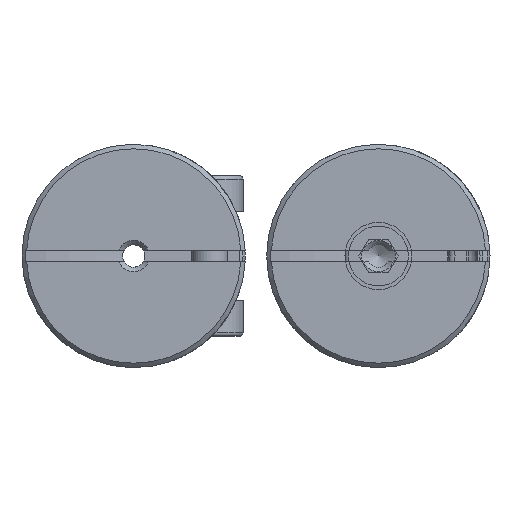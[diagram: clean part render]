
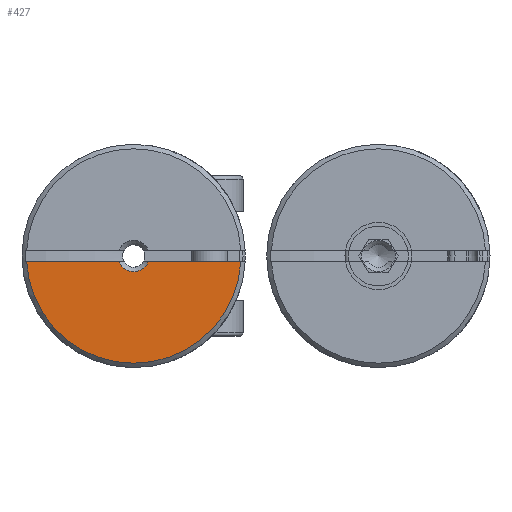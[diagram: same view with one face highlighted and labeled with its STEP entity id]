
A CAD part, left-side view. The second image highlights one B-rep face of the part: STEP entity #427.
In plain terms, the highlighted planar face has unit normal (-1, 0, 0).
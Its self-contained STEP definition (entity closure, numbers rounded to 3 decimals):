
#427 = ADVANCED_FACE( 'NONE', ( #911 ), #912, .F. );
#911 = FACE_OUTER_BOUND( '', #1321, .T. );
#912 = PLANE( '', #1322 );
#1321 = EDGE_LOOP( '', ( #1968, #1969, #1970, #1971 ) );
#1322 = AXIS2_PLACEMENT_3D( '', #1972, #1973, #1974 );
#1968 = ORIENTED_EDGE( '', *, *, #2338, .F. );
#1969 = ORIENTED_EDGE( '', *, *, #2339, .T. );
#1970 = ORIENTED_EDGE( '', *, *, #2340, .F. );
#1971 = ORIENTED_EDGE( '', *, *, #2341, .T. );
#1972 = CARTESIAN_POINT( '', ( 0., 0.5, 0. ) );
#1973 = DIRECTION( '', ( 1., 0., 0. ) );
#1974 = DIRECTION( '', ( 0., 1., 0. ) );
#2338 = EDGE_CURVE( 'NONE', #2665, #2666, #2667, .F. );
#2339 = EDGE_CURVE( 'NONE', #2665, #2668, #2669, .T. );
#2340 = EDGE_CURVE( 'NONE', #2670, #2668, #2671, .F. );
#2341 = EDGE_CURVE( 'NONE', #2670, #2666, #2672, .F. );
#2665 = VERTEX_POINT( 'NONE', #3034 );
#2666 = VERTEX_POINT( 'NONE', #3035 );
#2667 = LINE( '', #3036, #3037 );
#2668 = VERTEX_POINT( 'NONE', #3038 );
#2669 = CIRCLE( '', #3039, 0.7 );
#2670 = VERTEX_POINT( 'NONE', #3040 );
#2671 = LINE( '', #3041, #3042 );
#2672 = CIRCLE( '', #3043, 4.8 );
#3034 = CARTESIAN_POINT( '', ( 0., -0.654, -0.25 ) );
#3035 = CARTESIAN_POINT( '', ( 0., -4.793, -0.25 ) );
#3036 = CARTESIAN_POINT( '', ( 0., -3.5, -0.25 ) );
#3037 = VECTOR( '', #3473, 1000. );
#3038 = CARTESIAN_POINT( '', ( 0., 0.654, -0.25 ) );
#3039 = AXIS2_PLACEMENT_3D( '', #3474, #3475, #3476 );
#3040 = CARTESIAN_POINT( '', ( 0., 4.793, -0.25 ) );
#3041 = CARTESIAN_POINT( '', ( 0., -3.5, -0.25 ) );
#3042 = VECTOR( '', #3477, 1000. );
#3043 = AXIS2_PLACEMENT_3D( '', #3478, #3479, #3480 );
#3473 = DIRECTION( '', ( 0., 1., 0. ) );
#3474 = CARTESIAN_POINT( '', ( 0., 0., 0. ) );
#3475 = DIRECTION( '', ( 1., 0., 0. ) );
#3476 = DIRECTION( '', ( 0., 0., -1. ) );
#3477 = DIRECTION( '', ( 0., 1., 0. ) );
#3478 = CARTESIAN_POINT( '', ( 0., 0., 0. ) );
#3479 = DIRECTION( '', ( 1., 0., 0. ) );
#3480 = DIRECTION( '', ( 0., 0., -1. ) );
